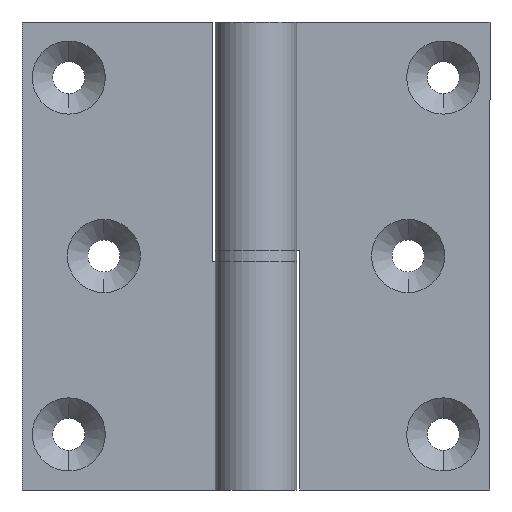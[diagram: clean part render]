
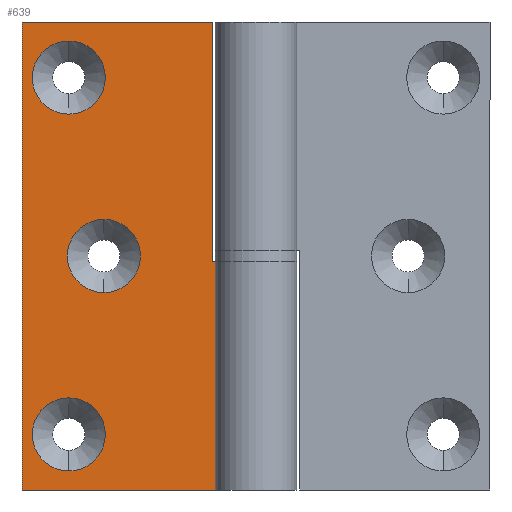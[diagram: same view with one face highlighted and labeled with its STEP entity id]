
A CAD part, front view. The second image highlights one B-rep face of the part: STEP entity #639.
In plain terms, the highlighted planar face has unit normal (0, -1, 0).
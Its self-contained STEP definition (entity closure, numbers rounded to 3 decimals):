
#140=CARTESIAN_POINT('',(-2.764,0.5,-41.));
#141=VERTEX_POINT('',#140);
#149=CARTESIAN_POINT('',(-2.764,0.5,-80.));
#150=VERTEX_POINT('',#149);
#151=CARTESIAN_POINT('',(-2.764,0.5,-41.));
#152=DIRECTION('',(0.0,0.0,-1.0));
#153=VECTOR('',#152,39.);
#154=LINE('',#151,#153);
#155=EDGE_CURVE('',#141,#150,#154,.T.);
#214=CARTESIAN_POINT('',(-21.782,0.5,-33.75));
#215=VERTEX_POINT('',#214);
#224=CARTESIAN_POINT('',(-21.782,0.5,-46.25));
#225=VERTEX_POINT('',#224);
#226=CARTESIAN_POINT('',(-21.782,0.5,-40.));
#227=DIRECTION('',(0.0,1.0,0.0));
#228=DIRECTION('',(0.0,0.0,1.0));
#229=AXIS2_PLACEMENT_3D('',#226,#227,#228);
#230=CIRCLE('',#229,6.25);
#231=EDGE_CURVE('',#225,#215,#230,.T.);
#256=CARTESIAN_POINT('',(-27.782,0.5,-3.25));
#257=VERTEX_POINT('',#256);
#266=CARTESIAN_POINT('',(-27.782,0.5,-15.75));
#267=VERTEX_POINT('',#266);
#268=CARTESIAN_POINT('',(-27.782,0.5,-9.5));
#269=DIRECTION('',(0.0,1.0,0.0));
#270=DIRECTION('',(0.0,0.0,1.0));
#271=AXIS2_PLACEMENT_3D('',#268,#269,#270);
#272=CIRCLE('',#271,6.25);
#273=EDGE_CURVE('',#267,#257,#272,.T.);
#298=CARTESIAN_POINT('',(-27.782,0.5,-64.25));
#299=VERTEX_POINT('',#298);
#308=CARTESIAN_POINT('',(-27.782,0.5,-76.75));
#309=VERTEX_POINT('',#308);
#310=CARTESIAN_POINT('',(-27.782,0.5,-70.5));
#311=DIRECTION('',(0.0,1.0,0.0));
#312=DIRECTION('',(0.0,0.0,1.0));
#313=AXIS2_PLACEMENT_3D('',#310,#311,#312);
#314=CIRCLE('',#313,6.25);
#315=EDGE_CURVE('',#309,#299,#314,.T.);
#416=CARTESIAN_POINT('',(-3.282,0.5,-41.));
#417=VERTEX_POINT('',#416);
#418=CARTESIAN_POINT('',(-3.282,0.5,0.));
#419=VERTEX_POINT('',#418);
#420=CARTESIAN_POINT('',(-3.282,0.5,-41.));
#421=DIRECTION('',(0.0,0.0,1.0));
#422=VECTOR('',#421,41.);
#423=LINE('',#420,#422);
#424=EDGE_CURVE('',#417,#419,#423,.T.);
#465=CARTESIAN_POINT('',(-35.782,0.5,0.));
#466=VERTEX_POINT('',#465);
#473=CARTESIAN_POINT('',(-3.282,0.5,0.));
#474=DIRECTION('',(-1.0,0.0,0.0));
#475=VECTOR('',#474,32.5);
#476=LINE('',#473,#475);
#477=EDGE_CURVE('',#419,#466,#476,.T.);
#551=CARTESIAN_POINT('',(-27.782,0.5,-70.5));
#552=DIRECTION('',(0.0,1.0,0.0));
#553=DIRECTION('',(0.0,0.0,1.0));
#554=AXIS2_PLACEMENT_3D('',#551,#552,#553);
#555=CIRCLE('',#554,6.25);
#556=EDGE_CURVE('',#299,#309,#555,.T.);
#569=CARTESIAN_POINT('',(-27.782,0.5,-9.5));
#570=DIRECTION('',(0.0,1.0,0.0));
#571=DIRECTION('',(0.0,0.0,1.0));
#572=AXIS2_PLACEMENT_3D('',#569,#570,#571);
#573=CIRCLE('',#572,6.25);
#574=EDGE_CURVE('',#257,#267,#573,.T.);
#587=CARTESIAN_POINT('',(-21.782,0.5,-40.));
#588=DIRECTION('',(0.0,1.0,0.0));
#589=DIRECTION('',(0.0,0.0,1.0));
#590=AXIS2_PLACEMENT_3D('',#587,#588,#589);
#591=CIRCLE('',#590,6.25);
#592=EDGE_CURVE('',#215,#225,#591,.T.);
#597=CARTESIAN_POINT('',(-15.782,0.5,-40.));
#598=DIRECTION('',(0.0,-1.0,0.0));
#599=DIRECTION('',(1.0,0.0,0.0));
#600=AXIS2_PLACEMENT_3D('',#597,#598,#599);
#601=PLANE('',#600);
#602=ORIENTED_EDGE('',*,*,#424,.T.);
#603=ORIENTED_EDGE('',*,*,#477,.T.);
#604=CARTESIAN_POINT('',(-35.782,0.5,-80.));
#605=VERTEX_POINT('',#604);
#606=CARTESIAN_POINT('',(-35.782,0.5,0.));
#607=DIRECTION('',(0.0,0.0,-1.0));
#608=VECTOR('',#607,80.);
#609=LINE('',#606,#608);
#610=EDGE_CURVE('',#466,#605,#609,.T.);
#611=ORIENTED_EDGE('',*,*,#610,.T.);
#612=CARTESIAN_POINT('',(-35.782,0.5,-80.));
#613=DIRECTION('',(1.0,0.0,0.0));
#614=VECTOR('',#613,33.018);
#615=LINE('',#612,#614);
#616=EDGE_CURVE('',#605,#150,#615,.T.);
#617=ORIENTED_EDGE('',*,*,#616,.T.);
#618=ORIENTED_EDGE('',*,*,#155,.F.);
#619=CARTESIAN_POINT('',(-2.764,0.5,-41.));
#620=DIRECTION('',(-1.0,0.0,0.0));
#621=VECTOR('',#620,0.518);
#622=LINE('',#619,#621);
#623=EDGE_CURVE('',#141,#417,#622,.T.);
#624=ORIENTED_EDGE('',*,*,#623,.T.);
#625=EDGE_LOOP('',(#602,#603,#611,#617,#618,#624));
#626=FACE_OUTER_BOUND('',#625,.T.);
#627=ORIENTED_EDGE('',*,*,#315,.T.);
#628=ORIENTED_EDGE('',*,*,#556,.T.);
#629=EDGE_LOOP('',(#627,#628));
#630=FACE_BOUND('',#629,.T.);
#631=ORIENTED_EDGE('',*,*,#273,.T.);
#632=ORIENTED_EDGE('',*,*,#574,.T.);
#633=EDGE_LOOP('',(#631,#632));
#634=FACE_BOUND('',#633,.T.);
#635=ORIENTED_EDGE('',*,*,#231,.T.);
#636=ORIENTED_EDGE('',*,*,#592,.T.);
#637=EDGE_LOOP('',(#635,#636));
#638=FACE_BOUND('',#637,.T.);
#639=ADVANCED_FACE('',(#626,#630,#634,#638),#601,.T.);
